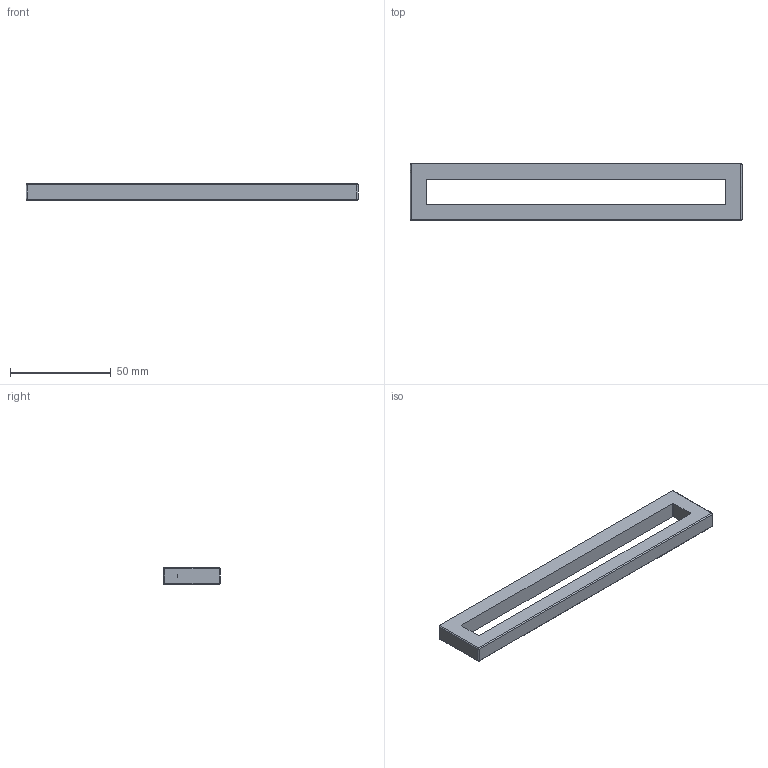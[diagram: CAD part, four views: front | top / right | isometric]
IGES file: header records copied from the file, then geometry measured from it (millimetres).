
Start section: Data from Parasolid IGES Translator 15.0.47, Copyright(c) 2006 Siemens P LM Software. All Rights Reserved.
Global section: file name: 9113204.igs; native system:  By UGS Corp.; preprocessor: XPlus GENERIC/IGES 3.0; author: Noname; organization: Noname; date: 20140123.103211; units: millimetre
Bounding box: 165 x 28 x 8.01 mm (x, y, z)
Surface area: 11254.7 mm2 (no closed solid volume)
Topology: 0 solids, 0 shells, 28 faces, 144 edges, 141 vertices
Faces by surface type: revolution 16, extrusion 12
